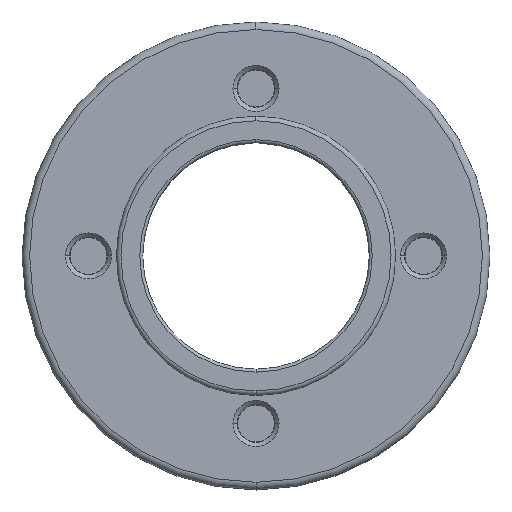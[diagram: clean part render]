
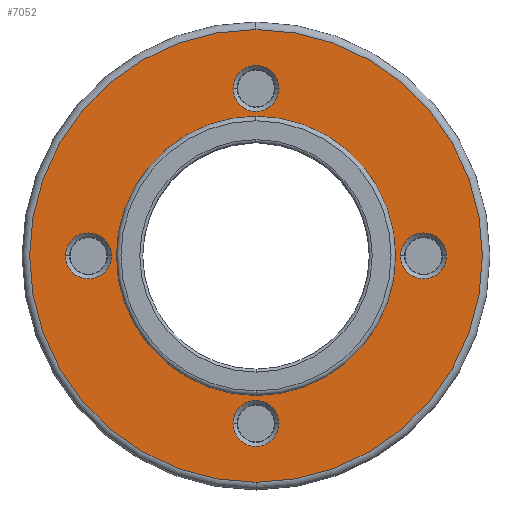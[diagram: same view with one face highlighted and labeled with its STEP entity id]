
A CAD part, top view. The second image highlights one B-rep face of the part: STEP entity #7052.
In plain terms, the highlighted planar face has unit normal (0, 0, 1).
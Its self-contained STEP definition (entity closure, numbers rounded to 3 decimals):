
#38 = EDGE_LOOP ( 'NONE', ( #2541, #2583 ) ) ;
#42 = EDGE_LOOP ( 'NONE', ( #6816, #2660 ) ) ;
#963 = CARTESIAN_POINT ( 'NONE',  ( -11.1, 0., 18.807 ) ) ;
#964 = DIRECTION ( 'NONE',  ( 0., 0., 1. ) ) ;
#965 = DIRECTION ( 'NONE',  ( 1., 0., 0. ) ) ;
#982 = CARTESIAN_POINT ( 'NONE',  ( 0., 0., 18.807 ) ) ;
#983 = DIRECTION ( 'NONE',  ( 0., 0., 1. ) ) ;
#984 = DIRECTION ( 'NONE',  ( 0., -1., 0. ) ) ;
#1445 = EDGE_LOOP ( 'NONE', ( #2518, #6869 ) ) ;
#1448 = EDGE_LOOP ( 'NONE', ( #2647, #6875 ) ) ;
#1449 = EDGE_LOOP ( 'NONE', ( #2530, #6859 ) ) ;
#1452 = EDGE_LOOP ( 'NONE', ( #6891, #2611 ) ) ;
#1461 = EDGE_CURVE ( 'NONE', #4877, #4865, #2829, .T. ) ;
#1468 = EDGE_CURVE ( 'NONE', #4917, #4894, #2839, .T. ) ;
#1524 = AXIS2_PLACEMENT_3D ( 'NONE', #4401, #4402, #4403 ) ;
#1548 = AXIS2_PLACEMENT_3D ( 'NONE', #3037, #3038, #3039 ) ;
#1625 = AXIS2_PLACEMENT_3D ( 'NONE', #2260, #5475, #5476 ) ;
#1626 = AXIS2_PLACEMENT_3D ( 'NONE', #5477, #5478, #5479 ) ;
#1627 = AXIS2_PLACEMENT_3D ( 'NONE', #5480, #5481, #5482 ) ;
#1632 = AXIS2_PLACEMENT_3D ( 'NONE', #5512, #5513, #5514 ) ;
#1739 = AXIS2_PLACEMENT_3D ( 'NONE', #3234, #3235, #3236 ) ;
#1740 = AXIS2_PLACEMENT_3D ( 'NONE', #3237, #3238, #3239 ) ;
#1763 = AXIS2_PLACEMENT_3D ( 'NONE', #3317, #3318, #3319 ) ;
#1852 = FACE_BOUND ( 'NONE', #42, .T. ) ;
#1854 = FACE_BOUND ( 'NONE', #38, .T. ) ;
#1856 = FACE_BOUND ( 'NONE', #1452, .T. ) ;
#1857 = FACE_BOUND ( 'NONE', #1448, .T. ) ;
#1858 = FACE_BOUND ( 'NONE', #1449, .T. ) ;
#1859 = FACE_OUTER_BOUND ( 'NONE', #1445, .T. ) ;
#2260 = CARTESIAN_POINT ( 'NONE',  ( 0., -11.1, 18.807 ) ) ;
#2518 = ORIENTED_EDGE ( 'NONE', *, *, #1468, .T. ) ;
#2530 = ORIENTED_EDGE ( 'NONE', *, *, #5095, .F. ) ;
#2541 = ORIENTED_EDGE ( 'NONE', *, *, #5097, .F. ) ;
#2583 = ORIENTED_EDGE ( 'NONE', *, *, #6590, .F. ) ;
#2611 = ORIENTED_EDGE ( 'NONE', *, *, #3915, .F. ) ;
#2647 = ORIENTED_EDGE ( 'NONE', *, *, #3970, .F. ) ;
#2660 = ORIENTED_EDGE ( 'NONE', *, *, #1461, .F. ) ;
#2829 = CIRCLE ( 'NONE', #5879, 1.525 ) ;
#2839 = CIRCLE ( 'NONE', #5883, 15. ) ;
#2935 = CIRCLE ( 'NONE', #1524, 9.25 ) ;
#3037 = CARTESIAN_POINT ( 'NONE',  ( 0., 11.1, 18.807 ) ) ;
#3038 = DIRECTION ( 'NONE',  ( 0., 0., 1. ) ) ;
#3039 = DIRECTION ( 'NONE',  ( 1., 0., 0. ) ) ;
#3234 = CARTESIAN_POINT ( 'NONE',  ( 0., -11.1, 18.807 ) ) ;
#3235 = DIRECTION ( 'NONE',  ( 0., 0., 1. ) ) ;
#3236 = DIRECTION ( 'NONE',  ( 1., 0., 0. ) ) ;
#3237 = CARTESIAN_POINT ( 'NONE',  ( 0., 0., 18.807 ) ) ;
#3238 = DIRECTION ( 'NONE',  ( 0., 0., 1. ) ) ;
#3239 = DIRECTION ( 'NONE',  ( 0., -1., 0. ) ) ;
#3317 = CARTESIAN_POINT ( 'NONE',  ( 0., 11.1, 18.807 ) ) ;
#3318 = DIRECTION ( 'NONE',  ( 0., 0., 1. ) ) ;
#3319 = DIRECTION ( 'NONE',  ( 1., 0., 0. ) ) ;
#3615 = CIRCLE ( 'NONE', #1548, 1.525 ) ;
#3839 = CIRCLE ( 'NONE', #1625, 1.525 ) ;
#3841 = CIRCLE ( 'NONE', #1626, 15. ) ;
#3842 = CIRCLE ( 'NONE', #1627, 1.525 ) ;
#3860 = CIRCLE ( 'NONE', #1632, 1.525 ) ;
#3915 = EDGE_CURVE ( 'NONE', #4886, #4814, #2935, .T. ) ;
#3970 = EDGE_CURVE ( 'NONE', #4883, #4878, #3615, .T. ) ;
#4401 = CARTESIAN_POINT ( 'NONE',  ( 0., 0., 18.807 ) ) ;
#4402 = DIRECTION ( 'NONE',  ( 0., 0., 1. ) ) ;
#4403 = DIRECTION ( 'NONE',  ( 0., -1., 0. ) ) ;
#4412 = AXIS2_PLACEMENT_3D ( 'NONE', #6333, #6334, #6335 ) ;
#4465 = AXIS2_PLACEMENT_3D ( 'NONE', #6510, #6506, #6512 ) ;
#4814 = VERTEX_POINT ( 'NONE', #6643 ) ;
#4863 = VERTEX_POINT ( 'NONE', #6688 ) ;
#4864 = VERTEX_POINT ( 'NONE', #6689 ) ;
#4865 = VERTEX_POINT ( 'NONE', #6690 ) ;
#4871 = VERTEX_POINT ( 'NONE', #6696 ) ;
#4874 = VERTEX_POINT ( 'NONE', #6699 ) ;
#4877 = VERTEX_POINT ( 'NONE', #6702 ) ;
#4878 = VERTEX_POINT ( 'NONE', #6703 ) ;
#4883 = VERTEX_POINT ( 'NONE', #6708 ) ;
#4886 = VERTEX_POINT ( 'NONE', #6711 ) ;
#4894 = VERTEX_POINT ( 'NONE', #6719 ) ;
#4917 = VERTEX_POINT ( 'NONE', #6742 ) ;
#5095 = EDGE_CURVE ( 'NONE', #4863, #4874, #3839, .T. ) ;
#5096 = EDGE_CURVE ( 'NONE', #4894, #4917, #3841, .T. ) ;
#5097 = EDGE_CURVE ( 'NONE', #4871, #4864, #3842, .T. ) ;
#5109 = EDGE_CURVE ( 'NONE', #4865, #4877, #3860, .T. ) ;
#5475 = DIRECTION ( 'NONE',  ( 0., 0., 1. ) ) ;
#5476 = DIRECTION ( 'NONE',  ( 1., 0., 0. ) ) ;
#5477 = CARTESIAN_POINT ( 'NONE',  ( 0., 0., 18.807 ) ) ;
#5478 = DIRECTION ( 'NONE',  ( 0., 0., 1. ) ) ;
#5479 = DIRECTION ( 'NONE',  ( 0., -1., 0. ) ) ;
#5480 = CARTESIAN_POINT ( 'NONE',  ( 11.1, 0., 18.807 ) ) ;
#5481 = DIRECTION ( 'NONE',  ( 0., 0., 1. ) ) ;
#5482 = DIRECTION ( 'NONE',  ( 1., 0., 0. ) ) ;
#5512 = CARTESIAN_POINT ( 'NONE',  ( -11.1, 0., 18.807 ) ) ;
#5513 = DIRECTION ( 'NONE',  ( 0., 0., 1. ) ) ;
#5514 = DIRECTION ( 'NONE',  ( 1., 0., 0. ) ) ;
#5730 = EDGE_CURVE ( 'NONE', #4874, #4863, #6198, .T. ) ;
#5731 = EDGE_CURVE ( 'NONE', #4814, #4886, #6200, .T. ) ;
#5879 = AXIS2_PLACEMENT_3D ( 'NONE', #963, #964, #965 ) ;
#5883 = AXIS2_PLACEMENT_3D ( 'NONE', #982, #983, #984 ) ;
#6198 = CIRCLE ( 'NONE', #1739, 1.525 ) ;
#6200 = CIRCLE ( 'NONE', #1740, 9.25 ) ;
#6230 = CIRCLE ( 'NONE', #1763, 1.525 ) ;
#6246 = CIRCLE ( 'NONE', #4412, 1.525 ) ;
#6333 = CARTESIAN_POINT ( 'NONE',  ( 11.1, 0., 18.807 ) ) ;
#6334 = DIRECTION ( 'NONE',  ( 0., 0., 1. ) ) ;
#6335 = DIRECTION ( 'NONE',  ( 1., 0., 0. ) ) ;
#6506 = DIRECTION ( 'NONE',  ( 0., 0., -1. ) ) ;
#6509 = PLANE ( 'NONE',  #4465 ) ;
#6510 = CARTESIAN_POINT ( 'NONE',  ( 0., 9.25, 18.807 ) ) ;
#6512 = DIRECTION ( 'NONE',  ( 0., 1., 0. ) ) ;
#6579 = EDGE_CURVE ( 'NONE', #4878, #4883, #6230, .T. ) ;
#6590 = EDGE_CURVE ( 'NONE', #4864, #4871, #6246, .T. ) ;
#6643 = CARTESIAN_POINT ( 'NONE',  ( 0., -9.25, 18.807 ) ) ;
#6688 = CARTESIAN_POINT ( 'NONE',  ( 1.525, -11.1, 18.807 ) ) ;
#6689 = CARTESIAN_POINT ( 'NONE',  ( 9.575, 0., 18.807 ) ) ;
#6690 = CARTESIAN_POINT ( 'NONE',  ( -9.575, 0., 18.807 ) ) ;
#6696 = CARTESIAN_POINT ( 'NONE',  ( 12.625, 0., 18.807 ) ) ;
#6699 = CARTESIAN_POINT ( 'NONE',  ( -1.525, -11.1, 18.807 ) ) ;
#6702 = CARTESIAN_POINT ( 'NONE',  ( -12.625, 0., 18.807 ) ) ;
#6703 = CARTESIAN_POINT ( 'NONE',  ( -1.525, 11.1, 18.807 ) ) ;
#6708 = CARTESIAN_POINT ( 'NONE',  ( 1.525, 11.1, 18.807 ) ) ;
#6711 = CARTESIAN_POINT ( 'NONE',  ( 0., 9.25, 18.807 ) ) ;
#6719 = CARTESIAN_POINT ( 'NONE',  ( 0., 15., 18.807 ) ) ;
#6742 = CARTESIAN_POINT ( 'NONE',  ( 0., -15., 18.807 ) ) ;
#6816 = ORIENTED_EDGE ( 'NONE', *, *, #5109, .F. ) ;
#6859 = ORIENTED_EDGE ( 'NONE', *, *, #5730, .F. ) ;
#6869 = ORIENTED_EDGE ( 'NONE', *, *, #5096, .T. ) ;
#6875 = ORIENTED_EDGE ( 'NONE', *, *, #6579, .F. ) ;
#6891 = ORIENTED_EDGE ( 'NONE', *, *, #5731, .F. ) ;
#7052 = ADVANCED_FACE ( 'NONE', ( #1854, #1858, #1852, #1857, #1856, #1859 ), #6509, .F. ) ;
